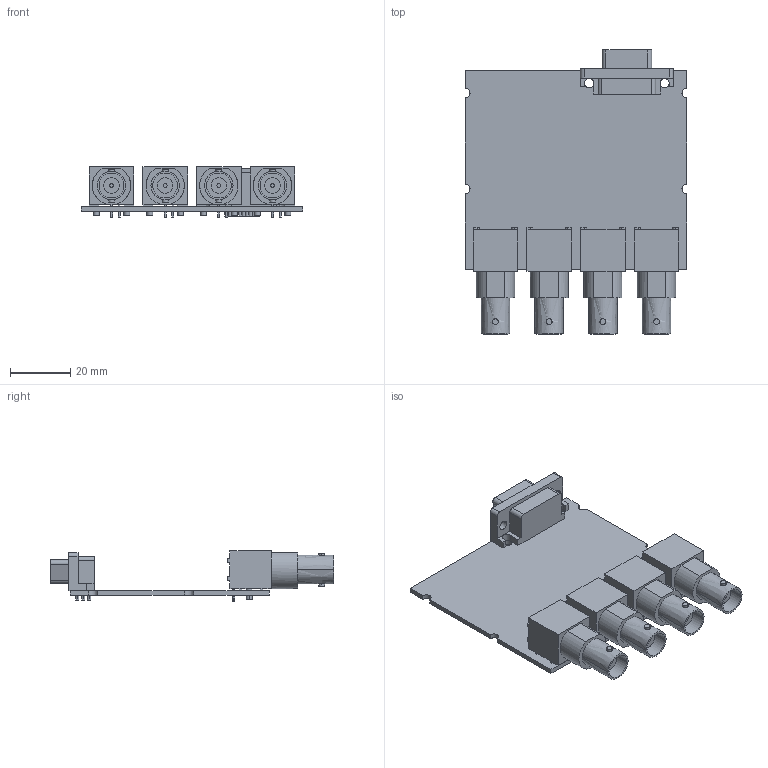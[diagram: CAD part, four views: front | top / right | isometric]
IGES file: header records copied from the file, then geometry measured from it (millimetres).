
Start section:  PTC IGES file: cu_ni-9234e.igs
Global section: file name: cu_ni-9234e.igs; native system: Creo Parametric by Parametric Technology Corporation; preprocessor: 2014000; author: dkendric; organization: Unknown; date: 20140917.151030; units: inch
Bounding box: 73.38 x 94.06 x 16.66 mm (x, y, z)
Surface area: 20337.3 mm2 (no closed solid volume)
Topology: 0 solids, 0 shells, 406 faces, 2088 edges, 2084 vertices
Faces by surface type: bspline 224, revolution 182
